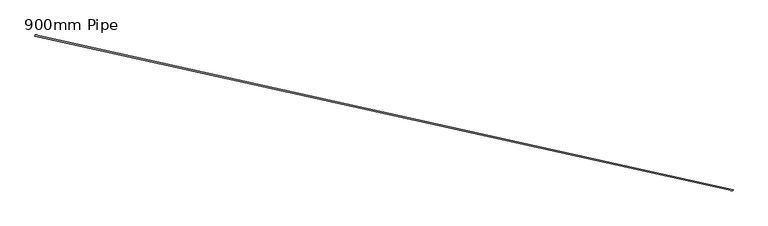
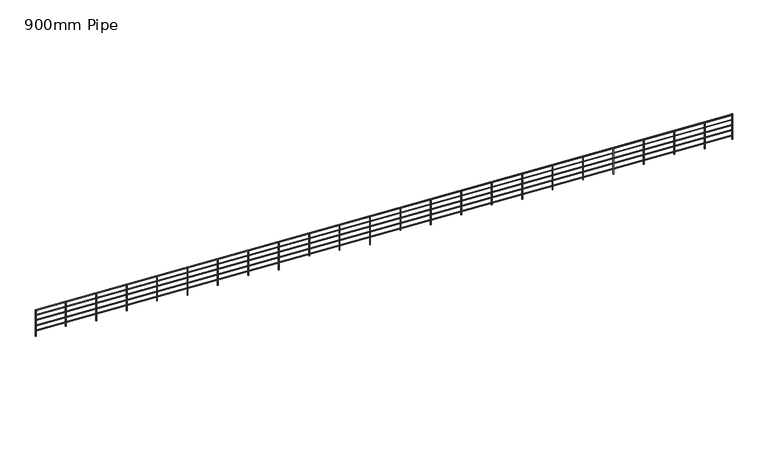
"""IFC4 building model written with IfcOpenShell, lengths in millimetres: railing geometry, 900mm Pipe."""

from ifc_helpers import new_model, si_unit, frame, origin, place, context, project, spatial, circle_curve, ellipse_curve, source, transform, mapped, element, save
from ifc_brep_helpers import plane_surface, cylinder_surface, advanced_brep


def railing_900mm_pipe_1ecdba98(model_context):
    return source(origin(), model_context, "Body", "AdvancedBrep", [
        advanced_brep(
        [(870997.4945899, 75302.6912382, 4155.8073829), (871006.1524023, 75341.743028, 4155.8073829), (893374.7226206, 70341.6422132, 6821.2563881), (893383.3804331, 70380.694003, 6821.2563881)],
        [
            (0, 1, ellipse_curve(frame((871001.8234961, 75322.2171331, 4155.8073829), z_axis=(-0.9762947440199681, 0.21644531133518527, 0.0), x_axis=(0.0, 0.0, -1.0)), 20.1347812, 20.0)),
            (1, 0, ellipse_curve(frame((871001.8234961, 75322.2171331, 4155.8073829), z_axis=(-0.9762947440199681, 0.21644531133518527, 0.0), x_axis=(0.0, 0.0, -1.0)), 20.1347812, 20.0)),
            (2, 3, ellipse_curve(frame((893379.0515268, 70361.1681081, 6821.2563881), z_axis=(0.9762947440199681, -0.21644531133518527, 0.0), x_axis=(0.0, 0.0, -1.0)), 20.1347812, 20.0)),
            (3, 2, ellipse_curve(frame((893379.0515268, 70361.1681081, 6821.2563881), z_axis=(0.9762947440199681, -0.21644531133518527, 0.0), x_axis=(0.0, 0.0, -1.0)), 20.1347812, 20.0)),
            (1, 3),
            (2, 0),
        ],
        [
            plane_surface(frame((871001.8234961, 75322.2171331, 4175.9421641), z_axis=(-0.9762947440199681, 0.21644531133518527, 0.0), x_axis=(0.21644531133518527, 0.9762947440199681, 0.0))),
            plane_surface(frame((893379.0515268, 70361.1681081, 6841.3911693), z_axis=(0.9762947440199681, -0.21644531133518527, 0.0), x_axis=(0.21644531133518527, 0.9762947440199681, 0.0))),
            cylinder_surface(frame((871004.0789766, 75321.7170913, 4156.076043), z_axis=(-0.9697594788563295, 0.21499643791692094, -0.11551227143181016), x_axis=(0.2164453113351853, 0.9762947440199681, 0.0)), 20.0),
        ],
        [
            (0, [[1, 2]]),
            (1, [[3, 4]]),
            (2, [[-2, 5, -3, 6]]),
            (2, [[-1, -6, -4, -5]]),
        ],
    ),
        advanced_brep(
        [(870998.5768164, 75307.5727119, 3960.8410782), (871005.0701758, 75336.8615542, 3960.8410782), (893375.8048472, 70346.5236869, 6626.2900834), (893382.2982065, 70375.8125292, 6626.2900834)],
        [
            (0, 1, ellipse_curve(frame((871001.8234961, 75322.2171331, 3960.8410782), z_axis=(-0.9762947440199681, 0.21644531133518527, 0.0), x_axis=(0.0, 0.0, -1.0)), 15.1010859, 15.0)),
            (1, 0, ellipse_curve(frame((871001.8234961, 75322.2171331, 3960.8410782), z_axis=(-0.9762947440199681, 0.21644531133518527, 0.0), x_axis=(0.0, 0.0, -1.0)), 15.1010859, 15.0)),
            (2, 3, ellipse_curve(frame((893379.0515268, 70361.1681081, 6626.2900834), z_axis=(0.9762947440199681, -0.21644531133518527, 0.0), x_axis=(0.0, 0.0, -1.0)), 15.1010859, 15.0)),
            (3, 2, ellipse_curve(frame((893379.0515268, 70361.1681081, 6626.2900834), z_axis=(0.9762947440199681, -0.21644531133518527, 0.0), x_axis=(0.0, 0.0, -1.0)), 15.1010859, 15.0)),
            (0, 2),
            (3, 1),
        ],
        [
            plane_surface(frame((871001.8234961, 75322.2171331, 3975.9421641), z_axis=(-0.9762947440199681, 0.21644531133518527, 0.0), x_axis=(0.21644531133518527, 0.9762947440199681, 0.0))),
            plane_surface(frame((893379.0515268, 70361.1681081, 6641.3911693), z_axis=(0.9762947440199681, -0.21644531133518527, 0.0), x_axis=(0.21644531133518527, 0.9762947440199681, 0.0))),
            cylinder_surface(frame((871003.5151065, 75321.8421017, 3961.0425733), z_axis=(-0.9697594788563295, 0.21499643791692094, -0.11551227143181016), x_axis=(0.2164453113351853, 0.9762947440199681, 0.0)), 15.0),
        ],
        [
            (0, [[1, 2]]),
            (1, [[3, 4]]),
            (2, [[-1, 5, -4, 6]]),
            (2, [[-2, -6, -3, -5]]),
        ],
    ),
        advanced_brep(
        [(870998.5768164, 75307.5727119, 3760.8410782), (871005.0701758, 75336.8615542, 3760.8410782), (893375.8048472, 70346.5236869, 6426.2900834), (893382.2982065, 70375.8125292, 6426.2900834)],
        [
            (0, 1, ellipse_curve(frame((871001.8234961, 75322.2171331, 3760.8410782), z_axis=(-0.9762947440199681, 0.21644531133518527, 0.0), x_axis=(0.0, 0.0, -1.0)), 15.1010859, 15.0)),
            (1, 0, ellipse_curve(frame((871001.8234961, 75322.2171331, 3760.8410782), z_axis=(-0.9762947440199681, 0.21644531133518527, 0.0), x_axis=(0.0, 0.0, -1.0)), 15.1010859, 15.0)),
            (2, 3, ellipse_curve(frame((893379.0515268, 70361.1681081, 6426.2900834), z_axis=(0.9762947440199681, -0.21644531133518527, 0.0), x_axis=(0.0, 0.0, -1.0)), 15.1010859, 15.0)),
            (3, 2, ellipse_curve(frame((893379.0515268, 70361.1681081, 6426.2900834), z_axis=(0.9762947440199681, -0.21644531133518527, 0.0), x_axis=(0.0, 0.0, -1.0)), 15.1010859, 15.0)),
            (0, 2),
            (3, 1),
        ],
        [
            plane_surface(frame((871001.8234961, 75322.2171331, 3775.9421641), z_axis=(-0.9762947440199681, 0.21644531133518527, 0.0), x_axis=(0.21644531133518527, 0.9762947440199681, 0.0))),
            plane_surface(frame((893379.0515268, 70361.1681081, 6441.3911693), z_axis=(0.9762947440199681, -0.21644531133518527, 0.0), x_axis=(0.21644531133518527, 0.9762947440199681, 0.0))),
            cylinder_surface(frame((871003.5151065, 75321.8421017, 3761.0425733), z_axis=(-0.9697594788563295, 0.21499643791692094, -0.11551227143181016), x_axis=(0.2164453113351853, 0.9762947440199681, 0.0)), 15.0),
        ],
        [
            (0, [[1, 2]]),
            (1, [[3, 4]]),
            (2, [[-1, 5, -4, 6]]),
            (2, [[-2, -6, -3, -5]]),
        ],
    ),
        advanced_brep(
        [(870998.5768164, 75307.5727119, 3560.8410782), (871005.0701758, 75336.8615542, 3560.8410782), (893375.8048472, 70346.5236869, 6226.2900834), (893382.2982065, 70375.8125292, 6226.2900834)],
        [
            (0, 1, ellipse_curve(frame((871001.8234961, 75322.2171331, 3560.8410782), z_axis=(-0.9762947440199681, 0.21644531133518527, 0.0), x_axis=(0.0, 0.0, -1.0)), 15.1010859, 15.0)),
            (1, 0, ellipse_curve(frame((871001.8234961, 75322.2171331, 3560.8410782), z_axis=(-0.9762947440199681, 0.21644531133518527, 0.0), x_axis=(0.0, 0.0, -1.0)), 15.1010859, 15.0)),
            (2, 3, ellipse_curve(frame((893379.0515268, 70361.1681081, 6226.2900834), z_axis=(0.9762947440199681, -0.21644531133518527, 0.0), x_axis=(0.0, 0.0, -1.0)), 15.1010859, 15.0)),
            (3, 2, ellipse_curve(frame((893379.0515268, 70361.1681081, 6226.2900834), z_axis=(0.9762947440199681, -0.21644531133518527, 0.0), x_axis=(0.0, 0.0, -1.0)), 15.1010859, 15.0)),
            (0, 2),
            (3, 1),
        ],
        [
            plane_surface(frame((871001.8234961, 75322.2171331, 3575.9421641), z_axis=(-0.9762947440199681, 0.21644531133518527, 0.0), x_axis=(0.21644531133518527, 0.9762947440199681, 0.0))),
            plane_surface(frame((893379.0515268, 70361.1681081, 6241.3911693), z_axis=(0.9762947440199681, -0.21644531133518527, 0.0), x_axis=(0.21644531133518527, 0.9762947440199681, 0.0))),
            cylinder_surface(frame((871003.5151065, 75321.8421017, 3561.0425733), z_axis=(-0.9697594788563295, 0.21499643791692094, -0.11551227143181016), x_axis=(0.2164453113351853, 0.9762947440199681, 0.0)), 15.0),
        ],
        [
            (0, [[1, 2]]),
            (1, [[3, 4]]),
            (2, [[-1, 5, -4, 6]]),
            (2, [[-2, -6, -3, -5]]),
        ],
    ),
        advanced_brep(
        [(870998.5768164, 75307.5727119, 3360.8410782), (871005.0701758, 75336.8615542, 3360.8410782), (893375.8048472, 70346.5236869, 6026.2900834), (893382.2982065, 70375.8125292, 6026.2900834)],
        [
            (0, 1, ellipse_curve(frame((871001.8234961, 75322.2171331, 3360.8410782), z_axis=(-0.9762947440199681, 0.21644531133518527, 0.0), x_axis=(0.0, 0.0, -1.0)), 15.1010859, 15.0)),
            (1, 0, ellipse_curve(frame((871001.8234961, 75322.2171331, 3360.8410782), z_axis=(-0.9762947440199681, 0.21644531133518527, 0.0), x_axis=(0.0, 0.0, -1.0)), 15.1010859, 15.0)),
            (2, 3, ellipse_curve(frame((893379.0515268, 70361.1681081, 6026.2900834), z_axis=(0.9762947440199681, -0.21644531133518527, 0.0), x_axis=(0.0, 0.0, -1.0)), 15.1010859, 15.0)),
            (3, 2, ellipse_curve(frame((893379.0515268, 70361.1681081, 6026.2900834), z_axis=(0.9762947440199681, -0.21644531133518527, 0.0), x_axis=(0.0, 0.0, -1.0)), 15.1010859, 15.0)),
            (0, 2),
            (3, 1),
        ],
        [
            plane_surface(frame((871001.8234961, 75322.2171331, 3375.9421641), z_axis=(-0.9762947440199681, 0.21644531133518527, 0.0), x_axis=(0.21644531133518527, 0.9762947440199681, 0.0))),
            plane_surface(frame((893379.0515268, 70361.1681081, 6041.3911693), z_axis=(0.9762947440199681, -0.21644531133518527, 0.0), x_axis=(0.21644531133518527, 0.9762947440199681, 0.0))),
            cylinder_surface(frame((871003.5151065, 75321.8421017, 3361.0425733), z_axis=(-0.9697594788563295, 0.21499643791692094, -0.11551227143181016), x_axis=(0.2164453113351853, 0.9762947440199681, 0.0)), 15.0),
        ],
        [
            (0, [[1, 2]]),
            (1, [[3, 4]]),
            (2, [[-1, 5, -4, 6]]),
            (2, [[-2, -6, -3, -5]]),
        ],
    ),
        advanced_brep(
        [(892483.013431, 70572.623968, 6694.0683384), (892477.6022982, 70548.2165994, 6694.0683384), (892477.6022982, 70548.2165994, 5709.3333333), (892483.013431, 70572.623968, 5709.3333333)],
        [
            (0, 1, ellipse_curve(frame((892480.3078646, 70560.4202837, 6694.0683384), z_axis=(0.11277402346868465, -0.025002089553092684, -0.9933060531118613), x_axis=(0.9697594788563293, -0.21499643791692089, 0.11551227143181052)), 12.5842382, 12.5)),
            (1, 2),
            (2, 3, circle_curve(frame((892480.3078646, 70560.4202837, 5709.3333333), z_axis=(0.0, 0.0, 1.0), x_axis=(-0.21644531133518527, -0.976294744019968, 0.0)), 12.5)),
            (3, 0),
            (3, 2, circle_curve(frame((892480.3078646, 70560.4202837, 5709.3333333), z_axis=(0.0, 0.0, 1.0), x_axis=(-0.21644531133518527, -0.976294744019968, 0.0)), 12.5)),
            (1, 0, ellipse_curve(frame((892480.3078646, 70560.4202837, 6694.0683384), z_axis=(0.11277402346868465, -0.025002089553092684, -0.9933060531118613), x_axis=(0.9697594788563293, -0.21499643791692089, 0.11551227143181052)), 12.5842382, 12.5)),
        ],
        [
            cylinder_surface(frame((892480.3078646, 70560.4202837, 5609.3333333), z_axis=(0.0, 0.0, 1.0), x_axis=(-0.21644531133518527, -0.976294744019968, 0.0)), 12.5),
            plane_surface(frame((892499.3041004, 70530.6017823, 6696.9756063), z_axis=(-0.11277402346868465, 0.025002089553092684, 0.9933060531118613), x_axis=(0.21644531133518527, 0.976294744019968, 0.0))),
            plane_surface(frame((892450.4893632, 70541.4240479, 5709.3333333), z_axis=(0.0, 0.0, -1.0), x_axis=(0.21644531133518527, 0.976294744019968, 0.0))),
        ],
        [
            (0, [[1, 2, 3, 4]]),
            (0, [[5, -2, 6, -4]]),
            (1, [[-6, -1]]),
            (2, [[-5, -3]]),
        ],
    ),
        advanced_brep(
        [(891506.7186869, 70789.0692793, 6577.7776231), (891501.3075541, 70764.6619107, 6577.7776231), (891501.3075541, 70764.6619107, 5709.3333333), (891506.7186869, 70789.0692793, 5709.3333333)],
        [
            (0, 1, ellipse_curve(frame((891504.0131205, 70776.865595, 6577.7776231), z_axis=(0.11277402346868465, -0.025002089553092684, -0.9933060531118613), x_axis=(0.9697594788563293, -0.21499643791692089, 0.11551227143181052)), 12.5842382, 12.5)),
            (1, 2),
            (2, 3, circle_curve(frame((891504.0131205, 70776.865595, 5709.3333333), z_axis=(0.0, 0.0, 1.0), x_axis=(-0.21644531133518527, -0.976294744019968, 0.0)), 12.5)),
            (3, 0),
            (3, 2, circle_curve(frame((891504.0131205, 70776.865595, 5709.3333333), z_axis=(0.0, 0.0, 1.0), x_axis=(-0.21644531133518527, -0.976294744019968, 0.0)), 12.5)),
            (1, 0, ellipse_curve(frame((891504.0131205, 70776.865595, 6577.7776231), z_axis=(0.11277402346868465, -0.025002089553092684, -0.9933060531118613), x_axis=(0.9697594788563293, -0.21499643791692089, 0.11551227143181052)), 12.5842382, 12.5)),
        ],
        [
            cylinder_surface(frame((891504.0131205, 70776.865595, 5609.3333333), z_axis=(0.0, 0.0, 1.0), x_axis=(-0.21644531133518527, -0.976294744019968, 0.0)), 12.5),
            plane_surface(frame((891523.0093564, 70747.0470937, 6580.684891), z_axis=(-0.11277402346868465, 0.025002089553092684, 0.9933060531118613), x_axis=(0.21644531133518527, 0.976294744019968, 0.0))),
            plane_surface(frame((891474.1946192, 70757.8693592, 5709.3333333), z_axis=(0.0, 0.0, -1.0), x_axis=(0.21644531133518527, 0.976294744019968, 0.0))),
        ],
        [
            (0, [[1, 2, 3, 4]]),
            (0, [[5, -2, 6, -4]]),
            (1, [[-6, -1]]),
            (2, [[-5, -3]]),
        ],
    ),
        advanced_brep(
        [(890530.4239429, 71005.5145907, 6461.4869078), (890525.0128101, 70981.1072221, 6461.4869078), (890525.0128101, 70981.1072221, 5540.0), (890530.4239429, 71005.5145907, 5540.0)],
        [
            (0, 1, ellipse_curve(frame((890527.7183765, 70993.3109064, 6461.4869078), z_axis=(0.11277402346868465, -0.025002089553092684, -0.9933060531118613), x_axis=(0.9697594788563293, -0.21499643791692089, 0.11551227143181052)), 12.5842382, 12.5)),
            (1, 2),
            (2, 3, circle_curve(frame((890527.7183765, 70993.3109064, 5540.0), z_axis=(0.0, 0.0, 1.0), x_axis=(-0.21644531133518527, -0.976294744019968, 0.0)), 12.5)),
            (3, 0),
            (3, 2, circle_curve(frame((890527.7183765, 70993.3109064, 5540.0), z_axis=(0.0, 0.0, 1.0), x_axis=(-0.21644531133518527, -0.976294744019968, 0.0)), 12.5)),
            (1, 0, ellipse_curve(frame((890527.7183765, 70993.3109064, 6461.4869078), z_axis=(0.11277402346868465, -0.025002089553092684, -0.9933060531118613), x_axis=(0.9697594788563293, -0.21499643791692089, 0.11551227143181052)), 12.5842382, 12.5)),
        ],
        [
            cylinder_surface(frame((890527.7183765, 70993.3109064, 5440.0), z_axis=(0.0, 0.0, 1.0), x_axis=(-0.21644531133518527, -0.976294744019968, 0.0)), 12.5),
            plane_surface(frame((890546.7146123, 70963.492405, 6464.3941757), z_axis=(-0.11277402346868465, 0.025002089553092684, 0.9933060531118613), x_axis=(0.21644531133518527, 0.976294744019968, 0.0))),
            plane_surface(frame((890497.8998751, 70974.3146706, 5540.0), z_axis=(0.0, 0.0, -1.0), x_axis=(0.21644531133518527, 0.976294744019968, 0.0))),
        ],
        [
            (0, [[1, 2, 3, 4]]),
            (0, [[5, -2, 6, -4]]),
            (1, [[-6, -1]]),
            (2, [[-5, -3]]),
        ],
    ),
        advanced_brep(
        [(889554.1291989, 71221.959902, 6345.1961925), (889548.7180661, 71197.5525334, 6345.1961925), (889548.7180661, 71197.5525334, 5370.6666667), (889554.1291989, 71221.959902, 5370.6666667)],
        [
            (0, 1, ellipse_curve(frame((889551.4236325, 71209.7562177, 6345.1961925), z_axis=(0.11277402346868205, -0.025002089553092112, -0.9933060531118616), x_axis=(0.9697594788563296, -0.21499643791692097, 0.11551227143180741)), 12.5842382, 12.5)),
            (1, 2),
            (2, 3, circle_curve(frame((889551.4236325, 71209.7562177, 5370.6666667), z_axis=(0.0, 0.0, 1.0), x_axis=(-0.21644531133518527, -0.976294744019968, 0.0)), 12.5)),
            (3, 0),
            (3, 2, circle_curve(frame((889551.4236325, 71209.7562177, 5370.6666667), z_axis=(0.0, 0.0, 1.0), x_axis=(-0.21644531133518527, -0.976294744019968, 0.0)), 12.5)),
            (1, 0, ellipse_curve(frame((889551.4236325, 71209.7562177, 6345.1961925), z_axis=(0.11277402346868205, -0.025002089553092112, -0.9933060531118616), x_axis=(0.9697594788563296, -0.21499643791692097, 0.11551227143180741)), 12.5842382, 12.5)),
        ],
        [
            cylinder_surface(frame((889551.4236325, 71209.7562177, 5270.6666667), z_axis=(0.0, 0.0, 1.0), x_axis=(-0.21644531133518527, -0.976294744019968, 0.0)), 12.5),
            plane_surface(frame((889570.4198683, 71179.9377163, 6348.1034604), z_axis=(-0.11277402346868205, 0.025002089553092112, 0.9933060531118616), x_axis=(0.21644531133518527, 0.976294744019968, 0.0))),
            plane_surface(frame((889521.6051311, 71190.7599819, 5370.6666667), z_axis=(0.0, 0.0, -1.0), x_axis=(0.21644531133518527, 0.976294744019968, 0.0))),
        ],
        [
            (0, [[1, 2, 3, 4]]),
            (0, [[5, -2, 6, -4]]),
            (1, [[-6, -1]]),
            (2, [[-5, -3]]),
        ],
    ),
        advanced_brep(
        [(888577.8344549, 71438.4052133, 6228.9054772), (888572.4233221, 71413.9978447, 6228.9054772), (888572.4233221, 71413.9978447, 5370.6666667), (888577.8344549, 71438.4052133, 5370.6666667)],
        [
            (0, 1, ellipse_curve(frame((888575.1288885, 71426.201529, 6228.9054772), z_axis=(0.11277402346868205, -0.025002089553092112, -0.9933060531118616), x_axis=(0.9697594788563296, -0.21499643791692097, 0.11551227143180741)), 12.5842382, 12.5)),
            (1, 2),
            (2, 3, circle_curve(frame((888575.1288885, 71426.201529, 5370.6666667), z_axis=(0.0, 0.0, 1.0), x_axis=(-0.21644531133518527, -0.976294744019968, 0.0)), 12.5)),
            (3, 0),
            (3, 2, circle_curve(frame((888575.1288885, 71426.201529, 5370.6666667), z_axis=(0.0, 0.0, 1.0), x_axis=(-0.21644531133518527, -0.976294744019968, 0.0)), 12.5)),
            (1, 0, ellipse_curve(frame((888575.1288885, 71426.201529, 6228.9054772), z_axis=(0.11277402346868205, -0.025002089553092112, -0.9933060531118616), x_axis=(0.9697594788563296, -0.21499643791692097, 0.11551227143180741)), 12.5842382, 12.5)),
        ],
        [
            cylinder_surface(frame((888575.1288885, 71426.201529, 5270.6666667), z_axis=(0.0, 0.0, 1.0), x_axis=(-0.21644531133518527, -0.976294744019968, 0.0)), 12.5),
            plane_surface(frame((888594.1251243, 71396.3830277, 6231.8127451), z_axis=(-0.11277402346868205, 0.025002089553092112, 0.9933060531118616), x_axis=(0.21644531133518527, 0.976294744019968, 0.0))),
            plane_surface(frame((888545.3103871, 71407.2052932, 5370.6666667), z_axis=(0.0, 0.0, -1.0), x_axis=(0.21644531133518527, 0.976294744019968, 0.0))),
        ],
        [
            (0, [[1, 2, 3, 4]]),
            (0, [[5, -2, 6, -4]]),
            (1, [[-6, -1]]),
            (2, [[-5, -3]]),
        ],
    ),
        advanced_brep(
        [(887601.5397109, 71654.8505247, 6112.6147619), (887596.1285781, 71630.4431561, 6112.6147619), (887596.1285781, 71630.4431561, 5201.3333333), (887601.5397109, 71654.8505247, 5201.3333333)],
        [
            (0, 1, ellipse_curve(frame((887598.8341445, 71642.6468404, 6112.6147619), z_axis=(0.11277402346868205, -0.025002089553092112, -0.9933060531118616), x_axis=(0.9697594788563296, -0.21499643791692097, 0.11551227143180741)), 12.5842382, 12.5)),
            (1, 2),
            (2, 3, circle_curve(frame((887598.8341445, 71642.6468404, 5201.3333333), z_axis=(0.0, 0.0, 1.0), x_axis=(-0.21644531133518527, -0.976294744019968, 0.0)), 12.5)),
            (3, 0),
            (3, 2, circle_curve(frame((887598.8341445, 71642.6468404, 5201.3333333), z_axis=(0.0, 0.0, 1.0), x_axis=(-0.21644531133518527, -0.976294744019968, 0.0)), 12.5)),
            (1, 0, ellipse_curve(frame((887598.8341445, 71642.6468404, 6112.6147619), z_axis=(0.11277402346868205, -0.025002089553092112, -0.9933060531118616), x_axis=(0.9697594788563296, -0.21499643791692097, 0.11551227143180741)), 12.5842382, 12.5)),
        ],
        [
            cylinder_surface(frame((887598.8341445, 71642.6468404, 5101.3333333), z_axis=(0.0, 0.0, 1.0), x_axis=(-0.21644531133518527, -0.976294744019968, 0.0)), 12.5),
            plane_surface(frame((887617.8303803, 71612.828339, 6115.5220298), z_axis=(-0.11277402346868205, 0.025002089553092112, 0.9933060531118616), x_axis=(0.21644531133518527, 0.976294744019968, 0.0))),
            plane_surface(frame((887569.0156431, 71623.6506046, 5201.3333333), z_axis=(0.0, 0.0, -1.0), x_axis=(0.21644531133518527, 0.976294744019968, 0.0))),
        ],
        [
            (0, [[1, 2, 3, 4]]),
            (0, [[5, -2, 6, -4]]),
            (1, [[-6, -1]]),
            (2, [[-5, -3]]),
        ],
    ),
        advanced_brep(
        [(886625.2449668, 71871.295836, 5996.3240466), (886619.833834, 71846.8884674, 5996.3240466), (886619.833834, 71846.8884674, 5032.0), (886625.2449668, 71871.295836, 5032.0)],
        [
            (0, 1, ellipse_curve(frame((886622.5394004, 71859.0921517, 5996.3240466), z_axis=(0.11277402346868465, -0.025002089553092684, -0.9933060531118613), x_axis=(0.9697594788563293, -0.21499643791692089, 0.11551227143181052)), 12.5842382, 12.5)),
            (1, 2),
            (2, 3, circle_curve(frame((886622.5394004, 71859.0921517, 5032.0), z_axis=(0.0, 0.0, 1.0), x_axis=(-0.21644531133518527, -0.976294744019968, 0.0)), 12.5)),
            (3, 0),
            (3, 2, circle_curve(frame((886622.5394004, 71859.0921517, 5032.0), z_axis=(0.0, 0.0, 1.0), x_axis=(-0.21644531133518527, -0.976294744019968, 0.0)), 12.5)),
            (1, 0, ellipse_curve(frame((886622.5394004, 71859.0921517, 5996.3240466), z_axis=(0.11277402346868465, -0.025002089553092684, -0.9933060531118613), x_axis=(0.9697594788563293, -0.21499643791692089, 0.11551227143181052)), 12.5842382, 12.5)),
        ],
        [
            cylinder_surface(frame((886622.5394004, 71859.0921517, 4932.0), z_axis=(0.0, 0.0, 1.0), x_axis=(-0.21644531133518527, -0.976294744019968, 0.0)), 12.5),
            plane_surface(frame((886641.5356363, 71829.2736503, 5999.2313145), z_axis=(-0.11277402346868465, 0.025002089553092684, 0.9933060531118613), x_axis=(0.21644531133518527, 0.976294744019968, 0.0))),
            plane_surface(frame((886592.7208991, 71840.0959159, 5032.0), z_axis=(0.0, 0.0, -1.0), x_axis=(0.21644531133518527, 0.976294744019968, 0.0))),
        ],
        [
            (0, [[1, 2, 3, 4]]),
            (0, [[5, -2, 6, -4]]),
            (1, [[-6, -1]]),
            (2, [[-5, -3]]),
        ],
    ),
        advanced_brep(
        [(885648.9502228, 72087.7411474, 5880.0333313), (885643.53909, 72063.3337788, 5880.0333313), (885643.53909, 72063.3337788, 5032.0), (885648.9502228, 72087.7411474, 5032.0)],
        [
            (0, 1, ellipse_curve(frame((885646.2446564, 72075.5374631, 5880.0333313), z_axis=(0.11277402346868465, -0.025002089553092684, -0.9933060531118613), x_axis=(0.9697594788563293, -0.21499643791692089, 0.11551227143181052)), 12.5842382, 12.5)),
            (1, 2),
            (2, 3, circle_curve(frame((885646.2446564, 72075.5374631, 5032.0), z_axis=(0.0, 0.0, 1.0), x_axis=(-0.21644531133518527, -0.976294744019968, 0.0)), 12.5)),
            (3, 0),
            (3, 2, circle_curve(frame((885646.2446564, 72075.5374631, 5032.0), z_axis=(0.0, 0.0, 1.0), x_axis=(-0.21644531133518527, -0.976294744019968, 0.0)), 12.5)),
            (1, 0, ellipse_curve(frame((885646.2446564, 72075.5374631, 5880.0333313), z_axis=(0.11277402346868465, -0.025002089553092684, -0.9933060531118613), x_axis=(0.9697594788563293, -0.21499643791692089, 0.11551227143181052)), 12.5842382, 12.5)),
        ],
        [
            cylinder_surface(frame((885646.2446564, 72075.5374631, 4932.0), z_axis=(0.0, 0.0, 1.0), x_axis=(-0.21644531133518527, -0.976294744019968, 0.0)), 12.5),
            plane_surface(frame((885665.2408922, 72045.7189617, 5882.9405992), z_axis=(-0.11277402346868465, 0.025002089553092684, 0.9933060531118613), x_axis=(0.21644531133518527, 0.976294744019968, 0.0))),
            plane_surface(frame((885616.426155, 72056.5412272, 5032.0), z_axis=(0.0, 0.0, -1.0), x_axis=(0.21644531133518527, 0.976294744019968, 0.0))),
        ],
        [
            (0, [[1, 2, 3, 4]]),
            (0, [[5, -2, 6, -4]]),
            (1, [[-6, -1]]),
            (2, [[-5, -3]]),
        ],
    ),
        advanced_brep(
        [(884672.6554788, 72304.1864587, 5763.742616), (884667.244346, 72279.7790901, 5763.742616), (884667.244346, 72279.7790901, 4862.6666667), (884672.6554788, 72304.1864587, 4862.6666667)],
        [
            (0, 1, ellipse_curve(frame((884669.9499124, 72291.9827744, 5763.742616), z_axis=(0.11277402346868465, -0.025002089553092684, -0.9933060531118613), x_axis=(0.9697594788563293, -0.21499643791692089, 0.11551227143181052)), 12.5842382, 12.5)),
            (1, 2),
            (2, 3, circle_curve(frame((884669.9499124, 72291.9827744, 4862.6666667), z_axis=(0.0, 0.0, 1.0), x_axis=(-0.21644531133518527, -0.976294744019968, 0.0)), 12.5)),
            (3, 0),
            (3, 2, circle_curve(frame((884669.9499124, 72291.9827744, 4862.6666667), z_axis=(0.0, 0.0, 1.0), x_axis=(-0.21644531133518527, -0.976294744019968, 0.0)), 12.5)),
            (1, 0, ellipse_curve(frame((884669.9499124, 72291.9827744, 5763.742616), z_axis=(0.11277402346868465, -0.025002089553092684, -0.9933060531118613), x_axis=(0.9697594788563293, -0.21499643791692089, 0.11551227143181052)), 12.5842382, 12.5)),
        ],
        [
            cylinder_surface(frame((884669.9499124, 72291.9827744, 4762.6666667), z_axis=(0.0, 0.0, 1.0), x_axis=(-0.21644531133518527, -0.976294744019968, 0.0)), 12.5),
            plane_surface(frame((884688.9461482, 72262.164273, 5766.6498839), z_axis=(-0.11277402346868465, 0.025002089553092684, 0.9933060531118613), x_axis=(0.21644531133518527, 0.976294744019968, 0.0))),
            plane_surface(frame((884640.131411, 72272.9865386, 4862.6666667), z_axis=(0.0, 0.0, -1.0), x_axis=(0.21644531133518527, 0.976294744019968, 0.0))),
        ],
        [
            (0, [[1, 2, 3, 4]]),
            (0, [[5, -2, 6, -4]]),
            (1, [[-6, -1]]),
            (2, [[-5, -3]]),
        ],
    ),
        advanced_brep(
        [(883696.3607348, 72520.63177, 5647.4519007), (883690.949602, 72496.2244014, 5647.4519007), (883690.949602, 72496.2244014, 4693.3333333), (883696.3607348, 72520.63177, 4693.3333333)],
        [
            (0, 1, ellipse_curve(frame((883693.6551684, 72508.4280857, 5647.4519007), z_axis=(0.11277402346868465, -0.025002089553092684, -0.9933060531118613), x_axis=(0.9697594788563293, -0.21499643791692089, 0.11551227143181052)), 12.5842382, 12.5)),
            (1, 2),
            (2, 3, circle_curve(frame((883693.6551684, 72508.4280857, 4693.3333333), z_axis=(0.0, 0.0, 1.0), x_axis=(-0.21644531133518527, -0.976294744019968, 0.0)), 12.5)),
            (3, 0),
            (3, 2, circle_curve(frame((883693.6551684, 72508.4280857, 4693.3333333), z_axis=(0.0, 0.0, 1.0), x_axis=(-0.21644531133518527, -0.976294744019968, 0.0)), 12.5)),
            (1, 0, ellipse_curve(frame((883693.6551684, 72508.4280857, 5647.4519007), z_axis=(0.11277402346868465, -0.025002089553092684, -0.9933060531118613), x_axis=(0.9697594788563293, -0.21499643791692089, 0.11551227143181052)), 12.5842382, 12.5)),
        ],
        [
            cylinder_surface(frame((883693.6551684, 72508.4280857, 4593.3333333), z_axis=(0.0, 0.0, 1.0), x_axis=(-0.21644531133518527, -0.976294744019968, 0.0)), 12.5),
            plane_surface(frame((883712.6514042, 72478.6095843, 5650.3591686), z_axis=(-0.11277402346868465, 0.025002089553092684, 0.9933060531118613), x_axis=(0.21644531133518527, 0.976294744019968, 0.0))),
            plane_surface(frame((883663.836667, 72489.4318499, 4693.3333333), z_axis=(0.0, 0.0, -1.0), x_axis=(0.21644531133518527, 0.976294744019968, 0.0))),
        ],
        [
            (0, [[1, 2, 3, 4]]),
            (0, [[5, -2, 6, -4]]),
            (1, [[-6, -1]]),
            (2, [[-5, -3]]),
        ],
    ),
        advanced_brep(
        [(882720.0659908, 72737.0770814, 5531.1611854), (882714.654858, 72712.6697128, 5531.1611854), (882714.654858, 72712.6697128, 4693.3333333), (882720.0659908, 72737.0770814, 4693.3333333)],
        [
            (0, 1, ellipse_curve(frame((882717.3604244, 72724.8733971, 5531.1611854), z_axis=(0.11277402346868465, -0.025002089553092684, -0.9933060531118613), x_axis=(0.9697594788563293, -0.21499643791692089, 0.11551227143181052)), 12.5842382, 12.5)),
            (1, 2),
            (2, 3, circle_curve(frame((882717.3604244, 72724.8733971, 4693.3333333), z_axis=(0.0, 0.0, 1.0), x_axis=(-0.21644531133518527, -0.976294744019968, 0.0)), 12.5)),
            (3, 0),
            (3, 2, circle_curve(frame((882717.3604244, 72724.8733971, 4693.3333333), z_axis=(0.0, 0.0, 1.0), x_axis=(-0.21644531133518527, -0.976294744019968, 0.0)), 12.5)),
            (1, 0, ellipse_curve(frame((882717.3604244, 72724.8733971, 5531.1611854), z_axis=(0.11277402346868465, -0.025002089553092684, -0.9933060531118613), x_axis=(0.9697594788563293, -0.21499643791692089, 0.11551227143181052)), 12.5842382, 12.5)),
        ],
        [
            cylinder_surface(frame((882717.3604244, 72724.8733971, 4593.3333333), z_axis=(0.0, 0.0, 1.0), x_axis=(-0.21644531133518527, -0.976294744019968, 0.0)), 12.5),
            plane_surface(frame((882736.3566602, 72695.0548957, 5534.0684533), z_axis=(-0.11277402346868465, 0.025002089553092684, 0.9933060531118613), x_axis=(0.21644531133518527, 0.976294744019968, 0.0))),
            plane_surface(frame((882687.541923, 72705.8771612, 4693.3333333), z_axis=(0.0, 0.0, -1.0), x_axis=(0.21644531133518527, 0.976294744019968, 0.0))),
        ],
        [
            (0, [[1, 2, 3, 4]]),
            (0, [[5, -2, 6, -4]]),
            (1, [[-6, -1]]),
            (2, [[-5, -3]]),
        ],
    ),
        advanced_brep(
        [(881743.7712467, 72953.5223927, 5414.8704701), (881738.3601139, 72929.1150241, 5414.8704701), (881738.3601139, 72929.1150241, 4354.6666667), (881743.7712467, 72953.5223927, 4354.6666667)],
        [
            (0, 1, ellipse_curve(frame((881741.0656803, 72941.3187084, 5414.8704701), z_axis=(0.11277402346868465, -0.025002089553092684, -0.9933060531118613), x_axis=(0.9697594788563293, -0.21499643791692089, 0.11551227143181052)), 12.5842382, 12.5)),
            (1, 2),
            (2, 3, circle_curve(frame((881741.0656803, 72941.3187084, 4354.6666667), z_axis=(0.0, 0.0, 1.0), x_axis=(-0.21644531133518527, -0.976294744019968, 0.0)), 12.5)),
            (3, 0),
            (3, 2, circle_curve(frame((881741.0656803, 72941.3187084, 4354.6666667), z_axis=(0.0, 0.0, 1.0), x_axis=(-0.21644531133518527, -0.976294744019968, 0.0)), 12.5)),
            (1, 0, ellipse_curve(frame((881741.0656803, 72941.3187084, 5414.8704701), z_axis=(0.11277402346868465, -0.025002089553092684, -0.9933060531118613), x_axis=(0.9697594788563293, -0.21499643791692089, 0.11551227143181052)), 12.5842382, 12.5)),
        ],
        [
            cylinder_surface(frame((881741.0656803, 72941.3187084, 4254.6666667), z_axis=(0.0, 0.0, 1.0), x_axis=(-0.21644531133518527, -0.976294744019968, 0.0)), 12.5),
            plane_surface(frame((881760.0619162, 72911.500207, 5417.777738), z_axis=(-0.11277402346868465, 0.025002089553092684, 0.9933060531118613), x_axis=(0.21644531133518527, 0.976294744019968, 0.0))),
            plane_surface(frame((881711.247179, 72922.3224726, 4354.6666667), z_axis=(0.0, 0.0, -1.0), x_axis=(0.21644531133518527, 0.976294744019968, 0.0))),
        ],
        [
            (0, [[1, 2, 3, 4]]),
            (0, [[5, -2, 6, -4]]),
            (1, [[-6, -1]]),
            (2, [[-5, -3]]),
        ],
    ),
        advanced_brep(
        [(880767.4765027, 73169.967704, 5298.5797548), (880762.0653699, 73145.5603354, 5298.5797548), (880762.0653699, 73145.5603354, 4354.6666667), (880767.4765027, 73169.967704, 4354.6666667)],
        [
            (0, 1, ellipse_curve(frame((880764.7709363, 73157.7640197, 5298.5797548), z_axis=(0.11277402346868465, -0.025002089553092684, -0.9933060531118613), x_axis=(0.9697594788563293, -0.21499643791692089, 0.11551227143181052)), 12.5842382, 12.5)),
            (1, 2),
            (2, 3, circle_curve(frame((880764.7709363, 73157.7640197, 4354.6666667), z_axis=(0.0, 0.0, 1.0), x_axis=(-0.21644531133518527, -0.976294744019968, 0.0)), 12.5)),
            (3, 0),
            (3, 2, circle_curve(frame((880764.7709363, 73157.7640197, 4354.6666667), z_axis=(0.0, 0.0, 1.0), x_axis=(-0.21644531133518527, -0.976294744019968, 0.0)), 12.5)),
            (1, 0, ellipse_curve(frame((880764.7709363, 73157.7640197, 5298.5797548), z_axis=(0.11277402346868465, -0.025002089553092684, -0.9933060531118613), x_axis=(0.9697594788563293, -0.21499643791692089, 0.11551227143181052)), 12.5842382, 12.5)),
        ],
        [
            cylinder_surface(frame((880764.7709363, 73157.7640197, 4254.6666667), z_axis=(0.0, 0.0, 1.0), x_axis=(-0.21644531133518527, -0.976294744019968, 0.0)), 12.5),
            plane_surface(frame((880783.7671721, 73127.9455183, 5301.4870227), z_axis=(-0.11277402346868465, 0.025002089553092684, 0.9933060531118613), x_axis=(0.21644531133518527, 0.976294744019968, 0.0))),
            plane_surface(frame((880734.9524349, 73138.7677839, 4354.6666667), z_axis=(0.0, 0.0, -1.0), x_axis=(0.21644531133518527, 0.976294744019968, 0.0))),
        ],
        [
            (0, [[1, 2, 3, 4]]),
            (0, [[5, -2, 6, -4]]),
            (1, [[-6, -1]]),
            (2, [[-5, -3]]),
        ],
    ),
        advanced_brep(
        [(879791.1817587, 73386.4130154, 5182.2890395), (879785.7706259, 73362.0056468, 5182.2890395), (879785.7706259, 73362.0056468, 4354.6666667), (879791.1817587, 73386.4130154, 4354.6666667)],
        [
            (0, 1, ellipse_curve(frame((879788.4761923, 73374.2093311, 5182.2890395), z_axis=(0.11277402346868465, -0.025002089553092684, -0.9933060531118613), x_axis=(0.9697594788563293, -0.21499643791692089, 0.11551227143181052)), 12.5842382, 12.5)),
            (1, 2),
            (2, 3, circle_curve(frame((879788.4761923, 73374.2093311, 4354.6666667), z_axis=(0.0, 0.0, 1.0), x_axis=(-0.21644531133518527, -0.976294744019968, 0.0)), 12.5)),
            (3, 0),
            (3, 2, circle_curve(frame((879788.4761923, 73374.2093311, 4354.6666667), z_axis=(0.0, 0.0, 1.0), x_axis=(-0.21644531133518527, -0.976294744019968, 0.0)), 12.5)),
            (1, 0, ellipse_curve(frame((879788.4761923, 73374.2093311, 5182.2890395), z_axis=(0.11277402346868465, -0.025002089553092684, -0.9933060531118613), x_axis=(0.9697594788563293, -0.21499643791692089, 0.11551227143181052)), 12.5842382, 12.5)),
        ],
        [
            cylinder_surface(frame((879788.4761923, 73374.2093311, 4254.6666667), z_axis=(0.0, 0.0, 1.0), x_axis=(-0.21644531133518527, -0.976294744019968, 0.0)), 12.5),
            plane_surface(frame((879807.4724281, 73344.3908297, 5185.1963074), z_axis=(-0.11277402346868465, 0.025002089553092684, 0.9933060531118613), x_axis=(0.21644531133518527, 0.976294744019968, 0.0))),
            plane_surface(frame((879758.6576909, 73355.2130952, 4354.6666667), z_axis=(0.0, 0.0, -1.0), x_axis=(0.21644531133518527, 0.976294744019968, 0.0))),
        ],
        [
            (0, [[1, 2, 3, 4]]),
            (0, [[5, -2, 6, -4]]),
            (1, [[-6, -1]]),
            (2, [[-5, -3]]),
        ],
    ),
        advanced_brep(
        [(878814.8870147, 73602.8583267, 5065.9983242), (878809.4758819, 73578.4509581, 5065.9983242), (878809.4758819, 73578.4509581, 4016.0), (878814.8870147, 73602.8583267, 4016.0)],
        [
            (0, 1, ellipse_curve(frame((878812.1814483, 73590.6546424, 5065.9983242), z_axis=(0.11277402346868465, -0.025002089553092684, -0.9933060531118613), x_axis=(0.9697594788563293, -0.21499643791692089, 0.11551227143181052)), 12.5842382, 12.5)),
            (1, 2),
            (2, 3, circle_curve(frame((878812.1814483, 73590.6546424, 4016.0), z_axis=(0.0, 0.0, 1.0), x_axis=(-0.21644531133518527, -0.976294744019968, 0.0)), 12.5)),
            (3, 0),
            (3, 2, circle_curve(frame((878812.1814483, 73590.6546424, 4016.0), z_axis=(0.0, 0.0, 1.0), x_axis=(-0.21644531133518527, -0.976294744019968, 0.0)), 12.5)),
            (1, 0, ellipse_curve(frame((878812.1814483, 73590.6546424, 5065.9983242), z_axis=(0.11277402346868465, -0.025002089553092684, -0.9933060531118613), x_axis=(0.9697594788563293, -0.21499643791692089, 0.11551227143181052)), 12.5842382, 12.5)),
        ],
        [
            cylinder_surface(frame((878812.1814483, 73590.6546424, 3916.0), z_axis=(0.0, 0.0, 1.0), x_axis=(-0.21644531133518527, -0.976294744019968, 0.0)), 12.5),
            plane_surface(frame((878831.1776841, 73560.836141, 5068.9055921), z_axis=(-0.11277402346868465, 0.025002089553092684, 0.9933060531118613), x_axis=(0.21644531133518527, 0.976294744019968, 0.0))),
            plane_surface(frame((878782.3629469, 73571.6584066, 4016.0), z_axis=(0.0, 0.0, -1.0), x_axis=(0.21644531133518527, 0.976294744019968, 0.0))),
        ],
        [
            (0, [[1, 2, 3, 4]]),
            (0, [[5, -2, 6, -4]]),
            (1, [[-6, -1]]),
            (2, [[-5, -3]]),
        ],
    ),
        advanced_brep(
        [(877838.5922707, 73819.303638, 4949.7076089), (877833.1811379, 73794.8962694, 4949.7076089), (877833.1811379, 73794.8962694, 4016.0), (877838.5922707, 73819.303638, 4016.0)],
        [
            (0, 1, ellipse_curve(frame((877835.8867043, 73807.0999537, 4949.7076089), z_axis=(0.11277402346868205, -0.025002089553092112, -0.9933060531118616), x_axis=(0.9697594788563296, -0.21499643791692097, 0.11551227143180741)), 12.5842382, 12.5)),
            (1, 2),
            (2, 3, circle_curve(frame((877835.8867043, 73807.0999537, 4016.0), z_axis=(0.0, 0.0, 1.0), x_axis=(-0.21644531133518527, -0.976294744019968, 0.0)), 12.5)),
            (3, 0),
            (3, 2, circle_curve(frame((877835.8867043, 73807.0999537, 4016.0), z_axis=(0.0, 0.0, 1.0), x_axis=(-0.21644531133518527, -0.976294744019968, 0.0)), 12.5)),
            (1, 0, ellipse_curve(frame((877835.8867043, 73807.0999537, 4949.7076089), z_axis=(0.11277402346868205, -0.025002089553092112, -0.9933060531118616), x_axis=(0.9697594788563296, -0.21499643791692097, 0.11551227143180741)), 12.5842382, 12.5)),
        ],
        [
            cylinder_surface(frame((877835.8867043, 73807.0999537, 3916.0), z_axis=(0.0, 0.0, 1.0), x_axis=(-0.21644531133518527, -0.976294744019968, 0.0)), 12.5),
            plane_surface(frame((877854.8829401, 73777.2814523, 4952.6148768), z_axis=(-0.11277402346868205, 0.025002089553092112, 0.9933060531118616), x_axis=(0.21644531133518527, 0.976294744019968, 0.0))),
            plane_surface(frame((877806.0682029, 73788.1037179, 4016.0), z_axis=(0.0, 0.0, -1.0), x_axis=(0.21644531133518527, 0.976294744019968, 0.0))),
        ],
        [
            (0, [[1, 2, 3, 4]]),
            (0, [[5, -2, 6, -4]]),
            (1, [[-6, -1]]),
            (2, [[-5, -3]]),
        ],
    ),
        advanced_brep(
        [(876862.2975266, 74035.7489494, 4833.4168936), (876856.8863938, 74011.3415808, 4833.4168936), (876856.8863938, 74011.3415808, 3846.6666667), (876862.2975266, 74035.7489494, 3846.6666667)],
        [
            (0, 1, ellipse_curve(frame((876859.5919602, 74023.5452651, 4833.4168936), z_axis=(0.11277402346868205, -0.025002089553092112, -0.9933060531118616), x_axis=(0.9697594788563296, -0.21499643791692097, 0.11551227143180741)), 12.5842382, 12.5)),
            (1, 2),
            (2, 3, circle_curve(frame((876859.5919602, 74023.5452651, 3846.6666667), z_axis=(0.0, 0.0, 1.0), x_axis=(-0.21644531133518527, -0.976294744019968, 0.0)), 12.5)),
            (3, 0),
            (3, 2, circle_curve(frame((876859.5919602, 74023.5452651, 3846.6666667), z_axis=(0.0, 0.0, 1.0), x_axis=(-0.21644531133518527, -0.976294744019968, 0.0)), 12.5)),
            (1, 0, ellipse_curve(frame((876859.5919602, 74023.5452651, 4833.4168936), z_axis=(0.11277402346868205, -0.025002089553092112, -0.9933060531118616), x_axis=(0.9697594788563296, -0.21499643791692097, 0.11551227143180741)), 12.5842382, 12.5)),
        ],
        [
            cylinder_surface(frame((876859.5919602, 74023.5452651, 3746.6666667), z_axis=(0.0, 0.0, 1.0), x_axis=(-0.21644531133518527, -0.976294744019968, 0.0)), 12.5),
            plane_surface(frame((876878.5881961, 73993.7267637, 4836.3241615), z_axis=(-0.11277402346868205, 0.025002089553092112, 0.9933060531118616), x_axis=(0.21644531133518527, 0.976294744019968, 0.0))),
            plane_surface(frame((876829.7734589, 74004.5490293, 3846.6666667), z_axis=(0.0, 0.0, -1.0), x_axis=(0.21644531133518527, 0.976294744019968, 0.0))),
        ],
        [
            (0, [[1, 2, 3, 4]]),
            (0, [[5, -2, 6, -4]]),
            (1, [[-6, -1]]),
            (2, [[-5, -3]]),
        ],
    ),
        advanced_brep(
        [(875886.0027826, 74252.1942607, 4717.1261783), (875880.5916498, 74227.7868921, 4717.1261783), (875880.5916498, 74227.7868921, 3677.3333333), (875886.0027826, 74252.1942607, 3677.3333333)],
        [
            (0, 1, ellipse_curve(frame((875883.2972162, 74239.9905764, 4717.1261783), z_axis=(0.11277402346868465, -0.025002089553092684, -0.9933060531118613), x_axis=(0.9697594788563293, -0.21499643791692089, 0.11551227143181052)), 12.5842382, 12.5)),
            (1, 2),
            (2, 3, circle_curve(frame((875883.2972162, 74239.9905764, 3677.3333333), z_axis=(0.0, 0.0, 1.0), x_axis=(-0.21644531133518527, -0.976294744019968, 0.0)), 12.5)),
            (3, 0),
            (3, 2, circle_curve(frame((875883.2972162, 74239.9905764, 3677.3333333), z_axis=(0.0, 0.0, 1.0), x_axis=(-0.21644531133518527, -0.976294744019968, 0.0)), 12.5)),
            (1, 0, ellipse_curve(frame((875883.2972162, 74239.9905764, 4717.1261783), z_axis=(0.11277402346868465, -0.025002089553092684, -0.9933060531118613), x_axis=(0.9697594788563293, -0.21499643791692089, 0.11551227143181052)), 12.5842382, 12.5)),
        ],
        [
            cylinder_surface(frame((875883.2972162, 74239.9905764, 3577.3333333), z_axis=(0.0, 0.0, 1.0), x_axis=(-0.21644531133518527, -0.976294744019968, 0.0)), 12.5),
            plane_surface(frame((875902.293452, 74210.172075, 4720.0334462), z_axis=(-0.11277402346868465, 0.025002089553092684, 0.9933060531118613), x_axis=(0.21644531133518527, 0.976294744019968, 0.0))),
            plane_surface(frame((875853.4787148, 74220.9943406, 3677.3333333), z_axis=(0.0, 0.0, -1.0), x_axis=(0.21644531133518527, 0.976294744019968, 0.0))),
        ],
        [
            (0, [[1, 2, 3, 4]]),
            (0, [[5, -2, 6, -4]]),
            (1, [[-6, -1]]),
            (2, [[-5, -3]]),
        ],
    ),
        advanced_brep(
        [(874909.7080386, 74468.639572, 4600.835463), (874904.2969058, 74444.2322034, 4600.835463), (874904.2969058, 74444.2322034, 3677.3333333), (874909.7080386, 74468.639572, 3677.3333333)],
        [
            (0, 1, ellipse_curve(frame((874907.0024722, 74456.4358877, 4600.835463), z_axis=(0.11277402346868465, -0.025002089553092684, -0.9933060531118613), x_axis=(0.9697594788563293, -0.21499643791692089, 0.11551227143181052)), 12.5842382, 12.5)),
            (1, 2),
            (2, 3, circle_curve(frame((874907.0024722, 74456.4358877, 3677.3333333), z_axis=(0.0, 0.0, 1.0), x_axis=(-0.21644531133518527, -0.976294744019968, 0.0)), 12.5)),
            (3, 0),
            (3, 2, circle_curve(frame((874907.0024722, 74456.4358877, 3677.3333333), z_axis=(0.0, 0.0, 1.0), x_axis=(-0.21644531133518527, -0.976294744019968, 0.0)), 12.5)),
            (1, 0, ellipse_curve(frame((874907.0024722, 74456.4358877, 4600.835463), z_axis=(0.11277402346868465, -0.025002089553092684, -0.9933060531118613), x_axis=(0.9697594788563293, -0.21499643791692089, 0.11551227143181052)), 12.5842382, 12.5)),
        ],
        [
            cylinder_surface(frame((874907.0024722, 74456.4358877, 3577.3333333), z_axis=(0.0, 0.0, 1.0), x_axis=(-0.21644531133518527, -0.976294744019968, 0.0)), 12.5),
            plane_surface(frame((874925.998708, 74426.6173864, 4603.7427309), z_axis=(-0.11277402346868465, 0.025002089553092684, 0.9933060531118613), x_axis=(0.21644531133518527, 0.976294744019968, 0.0))),
            plane_surface(frame((874877.1839708, 74437.4396519, 3677.3333333), z_axis=(0.0, 0.0, -1.0), x_axis=(0.21644531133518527, 0.976294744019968, 0.0))),
        ],
        [
            (0, [[1, 2, 3, 4]]),
            (0, [[5, -2, 6, -4]]),
            (1, [[-6, -1]]),
            (2, [[-5, -3]]),
        ],
    ),
        advanced_brep(
        [(873933.4132946, 74685.0848834, 4484.5447477), (873928.0021618, 74660.6775148, 4484.5447477), (873928.0021618, 74660.6775148, 3508.0), (873933.4132946, 74685.0848834, 3508.0)],
        [
            (0, 1, ellipse_curve(frame((873930.7077282, 74672.8811991, 4484.5447477), z_axis=(0.11277402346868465, -0.025002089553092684, -0.9933060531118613), x_axis=(0.9697594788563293, -0.21499643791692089, 0.11551227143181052)), 12.5842382, 12.5)),
            (1, 2),
            (2, 3, circle_curve(frame((873930.7077282, 74672.8811991, 3508.0), z_axis=(0.0, 0.0, 1.0), x_axis=(-0.21644531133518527, -0.976294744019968, 0.0)), 12.5)),
            (3, 0),
            (3, 2, circle_curve(frame((873930.7077282, 74672.8811991, 3508.0), z_axis=(0.0, 0.0, 1.0), x_axis=(-0.21644531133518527, -0.976294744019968, 0.0)), 12.5)),
            (1, 0, ellipse_curve(frame((873930.7077282, 74672.8811991, 4484.5447477), z_axis=(0.11277402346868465, -0.025002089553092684, -0.9933060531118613), x_axis=(0.9697594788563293, -0.21499643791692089, 0.11551227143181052)), 12.5842382, 12.5)),
        ],
        [
            cylinder_surface(frame((873930.7077282, 74672.8811991, 3408.0), z_axis=(0.0, 0.0, 1.0), x_axis=(-0.21644531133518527, -0.976294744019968, 0.0)), 12.5),
            plane_surface(frame((873949.703964, 74643.0626977, 4487.4520156), z_axis=(-0.11277402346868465, 0.025002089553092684, 0.9933060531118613), x_axis=(0.21644531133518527, 0.976294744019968, 0.0))),
            plane_surface(frame((873900.8892268, 74653.8849633, 3508.0), z_axis=(0.0, 0.0, -1.0), x_axis=(0.21644531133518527, 0.976294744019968, 0.0))),
        ],
        [
            (0, [[1, 2, 3, 4]]),
            (0, [[5, -2, 6, -4]]),
            (1, [[-6, -1]]),
            (2, [[-5, -3]]),
        ],
    ),
        advanced_brep(
        [(872957.1185506, 74901.5301947, 4368.2540324), (872951.7074178, 74877.1228261, 4368.2540324), (872951.7074178, 74877.1228261, 3338.6666667), (872957.1185506, 74901.5301947, 3338.6666667)],
        [
            (0, 1, ellipse_curve(frame((872954.4129842, 74889.3265104, 4368.2540324), z_axis=(0.11277402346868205, -0.025002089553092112, -0.9933060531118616), x_axis=(0.9697594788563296, -0.21499643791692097, 0.11551227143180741)), 12.5842382, 12.5)),
            (1, 2),
            (2, 3, circle_curve(frame((872954.4129842, 74889.3265104, 3338.6666667), z_axis=(0.0, 0.0, 1.0), x_axis=(-0.21644531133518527, -0.976294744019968, 0.0)), 12.5)),
            (3, 0),
            (3, 2, circle_curve(frame((872954.4129842, 74889.3265104, 3338.6666667), z_axis=(0.0, 0.0, 1.0), x_axis=(-0.21644531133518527, -0.976294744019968, 0.0)), 12.5)),
            (1, 0, ellipse_curve(frame((872954.4129842, 74889.3265104, 4368.2540324), z_axis=(0.11277402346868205, -0.025002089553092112, -0.9933060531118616), x_axis=(0.9697594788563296, -0.21499643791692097, 0.11551227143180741)), 12.5842382, 12.5)),
        ],
        [
            cylinder_surface(frame((872954.4129842, 74889.3265104, 3238.6666667), z_axis=(0.0, 0.0, 1.0), x_axis=(-0.21644531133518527, -0.976294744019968, 0.0)), 12.5),
            plane_surface(frame((872973.40922, 74859.508009, 4371.1613003), z_axis=(-0.11277402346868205, 0.025002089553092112, 0.9933060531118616), x_axis=(0.21644531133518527, 0.976294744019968, 0.0))),
            plane_surface(frame((872924.5944828, 74870.3302746, 3338.6666667), z_axis=(0.0, 0.0, -1.0), x_axis=(0.21644531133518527, 0.976294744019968, 0.0))),
        ],
        [
            (0, [[1, 2, 3, 4]]),
            (0, [[5, -2, 6, -4]]),
            (1, [[-6, -1]]),
            (2, [[-5, -3]]),
        ],
    ),
        advanced_brep(
        [(871980.8238065, 75117.975506, 4251.9633171), (871975.4126737, 75093.5681374, 4251.9633171), (871975.4126737, 75093.5681374, 3338.6666667), (871980.8238065, 75117.975506, 3338.6666667)],
        [
            (0, 1, ellipse_curve(frame((871978.1182401, 75105.7718217, 4251.9633171), z_axis=(0.11277402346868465, -0.025002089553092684, -0.9933060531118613), x_axis=(0.9697594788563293, -0.21499643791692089, 0.11551227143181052)), 12.5842382, 12.5)),
            (1, 2),
            (2, 3, circle_curve(frame((871978.1182401, 75105.7718217, 3338.6666667), z_axis=(0.0, 0.0, 1.0), x_axis=(-0.21644531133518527, -0.976294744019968, 0.0)), 12.5)),
            (3, 0),
            (3, 2, circle_curve(frame((871978.1182401, 75105.7718217, 3338.6666667), z_axis=(0.0, 0.0, 1.0), x_axis=(-0.21644531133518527, -0.976294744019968, 0.0)), 12.5)),
            (1, 0, ellipse_curve(frame((871978.1182401, 75105.7718217, 4251.9633171), z_axis=(0.11277402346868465, -0.025002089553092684, -0.9933060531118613), x_axis=(0.9697594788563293, -0.21499643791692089, 0.11551227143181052)), 12.5842382, 12.5)),
        ],
        [
            cylinder_surface(frame((871978.1182401, 75105.7718217, 3238.6666667), z_axis=(0.0, 0.0, 1.0), x_axis=(-0.21644531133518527, -0.976294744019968, 0.0)), 12.5),
            plane_surface(frame((871997.114476, 75075.9533204, 4254.870585), z_axis=(-0.11277402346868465, 0.025002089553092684, 0.9933060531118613), x_axis=(0.21644531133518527, 0.976294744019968, 0.0))),
            plane_surface(frame((871948.2997388, 75086.7755859, 3338.6666667), z_axis=(0.0, 0.0, -1.0), x_axis=(0.21644531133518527, 0.976294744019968, 0.0))),
        ],
        [
            (0, [[1, 2, 3, 4]]),
            (0, [[5, -2, 6, -4]]),
            (1, [[-6, -1]]),
            (2, [[-5, -3]]),
        ],
    ),
        advanced_brep(
        [(893369.5534089, 70376.0773588, 6799.667973), (893364.1422761, 70351.6699902, 6799.667973), (893364.1422761, 70351.6699902, 5878.6666667), (893369.5534089, 70376.0773588, 5878.6666667)],
        [
            (0, 1, ellipse_curve(frame((893366.8478425, 70363.8736745, 6799.667973), z_axis=(0.11277402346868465, -0.025002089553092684, -0.9933060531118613), x_axis=(0.9697594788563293, -0.21499643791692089, 0.11551227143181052)), 12.5842382, 12.5)),
            (1, 2),
            (2, 3, circle_curve(frame((893366.8478425, 70363.8736745, 5878.6666667), z_axis=(0.0, 0.0, 1.0), x_axis=(-0.21644531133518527, -0.976294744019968, 0.0)), 12.5)),
            (3, 0),
            (3, 2, circle_curve(frame((893366.8478425, 70363.8736745, 5878.6666667), z_axis=(0.0, 0.0, 1.0), x_axis=(-0.21644531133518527, -0.976294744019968, 0.0)), 12.5)),
            (1, 0, ellipse_curve(frame((893366.8478425, 70363.8736745, 6799.667973), z_axis=(0.11277402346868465, -0.025002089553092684, -0.9933060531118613), x_axis=(0.9697594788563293, -0.21499643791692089, 0.11551227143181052)), 12.5842382, 12.5)),
        ],
        [
            cylinder_surface(frame((893366.8478425, 70363.8736745, 5778.6666667), z_axis=(0.0, 0.0, 1.0), x_axis=(-0.21644531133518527, -0.976294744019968, 0.0)), 12.5),
            plane_surface(frame((893385.8440784, 70334.0551731, 6802.5752409), z_axis=(-0.11277402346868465, 0.025002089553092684, 0.9933060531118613), x_axis=(0.21644531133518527, 0.976294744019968, 0.0))),
            plane_surface(frame((893337.0293411, 70344.8774387, 5878.6666667), z_axis=(0.0, 0.0, -1.0), x_axis=(0.21644531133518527, 0.976294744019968, 0.0))),
        ],
        [
            (0, [[1, 2, 3, 4]]),
            (0, [[5, -2, 6, -4]]),
            (1, [[-6, -1]]),
            (2, [[-5, -3]]),
        ],
    ),
        advanced_brep(
        [(871016.7327468, 75331.715251, 4137.1262357), (871011.321614, 75307.3078824, 4137.1262357), (871011.321614, 75307.3078824, 3169.3333333), (871016.7327468, 75331.715251, 3169.3333333)],
        [
            (0, 1, ellipse_curve(frame((871014.0271804, 75319.5115667, 4137.1262357), z_axis=(0.11277402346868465, -0.025002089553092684, -0.9933060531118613), x_axis=(0.9697594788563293, -0.21499643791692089, 0.11551227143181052)), 12.5842382, 12.5)),
            (1, 2),
            (2, 3, circle_curve(frame((871014.0271804, 75319.5115667, 3169.3333333), z_axis=(0.0, 0.0, 1.0), x_axis=(-0.21644531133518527, -0.976294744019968, 0.0)), 12.5)),
            (3, 0),
            (3, 2, circle_curve(frame((871014.0271804, 75319.5115667, 3169.3333333), z_axis=(0.0, 0.0, 1.0), x_axis=(-0.21644531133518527, -0.976294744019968, 0.0)), 12.5)),
            (1, 0, ellipse_curve(frame((871014.0271804, 75319.5115667, 4137.1262357), z_axis=(0.11277402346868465, -0.025002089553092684, -0.9933060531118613), x_axis=(0.9697594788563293, -0.21499643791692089, 0.11551227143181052)), 12.5842382, 12.5)),
        ],
        [
            cylinder_surface(frame((871014.0271804, 75319.5115667, 3069.3333333), z_axis=(0.0, 0.0, 1.0), x_axis=(-0.21644531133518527, -0.976294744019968, 0.0)), 12.5),
            plane_surface(frame((871033.0234162, 75289.6930653, 4140.0335036), z_axis=(-0.11277402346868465, 0.025002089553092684, 0.9933060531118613), x_axis=(0.21644531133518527, 0.976294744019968, 0.0))),
            plane_surface(frame((870984.208679, 75300.5153309, 3169.3333333), z_axis=(0.0, 0.0, -1.0), x_axis=(0.21644531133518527, 0.976294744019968, 0.0))),
        ],
        [
            (0, [[1, 2, 3, 4]]),
            (0, [[5, -2, 6, -4]]),
            (1, [[-6, -1]]),
            (2, [[-5, -3]]),
        ],
    ),
    ])


if __name__ == "__main__":
    model = new_model("IFC4")
    model_context = context("Model", 3, world=origin())
    ifc_project = project(units=[si_unit("LENGTHUNIT", "METRE", prefix="MILLI")], contexts=[model_context])
    site = spatial("IfcSite", under=ifc_project)
    building = spatial("IfcBuilding", under=site)
    placement = place(None, origin())
    railing_900mm_pipe_shape = railing_900mm_pipe_1ecdba98(model_context)
    element("IfcRailing", 1, ObjectType="900mm Pipe", at=placement, inside=building, context=model_context, shape_type="MappedRepresentation", body=[
        mapped(railing_900mm_pipe_shape, transform((0.0, 0.0, 0.0), x_axis=(1.0, 0.0, 0.0), y_axis=(0.0, 1.0, 0.0), z_axis=(0.0, 0.0, 1.0))),
    ])
    save(model, "model.ifc")
